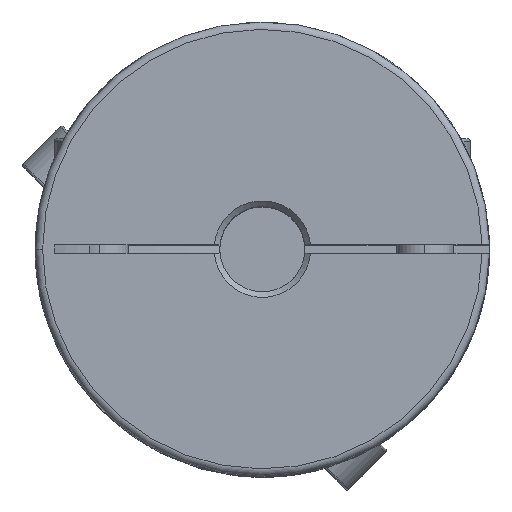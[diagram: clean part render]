
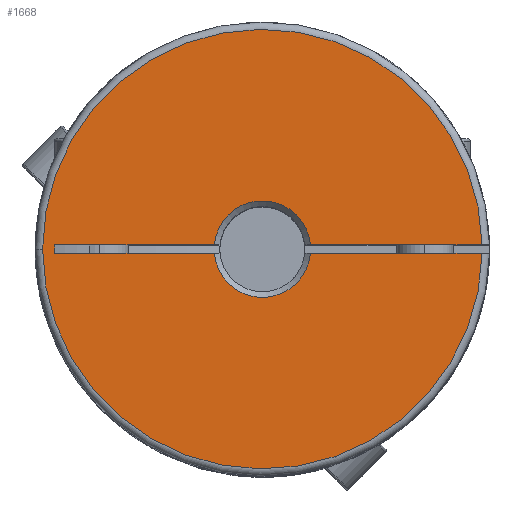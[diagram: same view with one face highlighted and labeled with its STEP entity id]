
A CAD part, top view. The second image highlights one B-rep face of the part: STEP entity #1668.
In plain terms, the highlighted planar face has unit normal (0, 0, 1).
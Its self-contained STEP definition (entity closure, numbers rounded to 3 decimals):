
#286 = EDGE_CURVE ( 'NONE', #1030, #1052, #11434, .T. ) ;
#287 = EDGE_CURVE ( 'NONE', #1052, #1054, #11433, .T. ) ;
#288 = EDGE_CURVE ( 'NONE', #1054, #1055, #11436, .T. ) ;
#289 = EDGE_CURVE ( 'NONE', #1055, #818, #11437, .T. ) ;
#290 = EDGE_CURVE ( 'NONE', #1043, #819, #11439, .T. ) ;
#291 = EDGE_CURVE ( 'NONE', #1043, #1057, #11440, .T. ) ;
#292 = EDGE_CURVE ( 'NONE', #1048, #1057, #11442, .T. ) ;
#293 = EDGE_CURVE ( 'NONE', #1048, #1030, #11432, .T. ) ;
#818 = VERTEX_POINT ( 'NONE', #16817 ) ;
#819 = VERTEX_POINT ( 'NONE', #16818 ) ;
#1030 = VERTEX_POINT ( 'NONE', #17019 ) ;
#1043 = VERTEX_POINT ( 'NONE', #17032 ) ;
#1048 = VERTEX_POINT ( 'NONE', #17037 ) ;
#1052 = VERTEX_POINT ( 'NONE', #17041 ) ;
#1054 = VERTEX_POINT ( 'NONE', #17043 ) ;
#1055 = VERTEX_POINT ( 'NONE', #17044 ) ;
#1057 = VERTEX_POINT ( 'NONE', #17046 ) ;
#1668 = ADVANCED_FACE ( 'NONE', ( #18265 ), #12683, .F. ) ;
#2494 = CARTESIAN_POINT ( 'NONE',  ( 0., 0.75, 57.1 ) ) ;
#2496 = DIRECTION ( 'NONE',  ( 1., 0., 0. ) ) ;
#2500 = DIRECTION ( 'NONE',  ( 1., 0., 0. ) ) ;
#2504 = CARTESIAN_POINT ( 'NONE',  ( 0., 0.75, 57.1 ) ) ;
#2505 = CARTESIAN_POINT ( 'NONE',  ( 0., -0.75, 57.1 ) ) ;
#2506 = DIRECTION ( 'NONE',  ( 1., 0., 0. ) ) ;
#2507 = CARTESIAN_POINT ( 'NONE',  ( 0., 0., 57.1 ) ) ;
#2508 = DIRECTION ( 'NONE',  ( 0., 0., -1. ) ) ;
#2509 = DIRECTION ( 'NONE',  ( 0., 1., 0. ) ) ;
#2510 = CARTESIAN_POINT ( 'NONE',  ( 0., -0.75, 57.1 ) ) ;
#2511 = DIRECTION ( 'NONE',  ( 1., 0., 0. ) ) ;
#2512 = CARTESIAN_POINT ( 'NONE',  ( 0., 0., 57.1 ) ) ;
#2513 = DIRECTION ( 'NONE',  ( 0., 0., 1. ) ) ;
#2514 = DIRECTION ( 'NONE',  ( -1., 0., 0. ) ) ;
#2516 = CARTESIAN_POINT ( 'NONE',  ( -36.562, -0.75, 57.1 ) ) ;
#2517 = CARTESIAN_POINT ( 'NONE',  ( 0., 0., 57.1 ) ) ;
#2518 = DIRECTION ( 'NONE',  ( 0., 0., -1. ) ) ;
#2519 = DIRECTION ( 'NONE',  ( 0., 1., 0. ) ) ;
#2521 = DIRECTION ( 'NONE',  ( 0., 1., 0. ) ) ;
#3809 = CARTESIAN_POINT ( 'NONE',  ( 0., 0., 57.1 ) ) ;
#3811 = DIRECTION ( 'NONE',  ( 0., 0., 1. ) ) ;
#3812 = DIRECTION ( 'NONE',  ( -1., 0., 0. ) ) ;
#5479 = AXIS2_PLACEMENT_3D ( 'NONE', #2507, #2508, #2509 ) ;
#5480 = AXIS2_PLACEMENT_3D ( 'NONE', #2512, #2513, #2514 ) ;
#5481 = AXIS2_PLACEMENT_3D ( 'NONE', #2517, #2518, #2519 ) ;
#8238 = EDGE_LOOP ( 'NONE', ( #12074, #12075, #12076, #12077, #12078, #12079, #12080, #12081, #12082 ) ) ;
#9528 = CIRCLE ( 'NONE', #12996, 38.7 ) ;
#9901 = AXIS2_PLACEMENT_3D ( 'NONE', #12682, #12686, #12687 ) ;
#11432 = LINE ( 'NONE', #2516, #11446 ) ;
#11433 = CIRCLE ( 'NONE', #5479, 8.5 ) ;
#11434 = LINE ( 'NONE', #2494, #11435 ) ;
#11435 = VECTOR ( 'NONE', #2496, 1000. ) ;
#11436 = LINE ( 'NONE', #2504, #11438 ) ;
#11437 = CIRCLE ( 'NONE', #5480, 38.7 ) ;
#11438 = VECTOR ( 'NONE', #2500, 1000. ) ;
#11439 = LINE ( 'NONE', #2505, #11441 ) ;
#11440 = CIRCLE ( 'NONE', #5481, 8.5 ) ;
#11441 = VECTOR ( 'NONE', #2506, 1000. ) ;
#11442 = LINE ( 'NONE', #2510, #11444 ) ;
#11444 = VECTOR ( 'NONE', #2511, 1000. ) ;
#11446 = VECTOR ( 'NONE', #2521, 1000. ) ;
#11598 = EDGE_CURVE ( 'NONE', #818, #819, #9528, .T. ) ;
#12074 = ORIENTED_EDGE ( 'NONE', *, *, #286, .T. ) ;
#12075 = ORIENTED_EDGE ( 'NONE', *, *, #287, .T. ) ;
#12076 = ORIENTED_EDGE ( 'NONE', *, *, #288, .T. ) ;
#12077 = ORIENTED_EDGE ( 'NONE', *, *, #289, .T. ) ;
#12078 = ORIENTED_EDGE ( 'NONE', *, *, #11598, .T. ) ;
#12079 = ORIENTED_EDGE ( 'NONE', *, *, #290, .F. ) ;
#12080 = ORIENTED_EDGE ( 'NONE', *, *, #291, .T. ) ;
#12081 = ORIENTED_EDGE ( 'NONE', *, *, #292, .F. ) ;
#12082 = ORIENTED_EDGE ( 'NONE', *, *, #293, .T. ) ;
#12682 = CARTESIAN_POINT ( 'NONE',  ( 0., 0., 57.1 ) ) ;
#12683 = PLANE ( 'NONE',  #9901 ) ;
#12686 = DIRECTION ( 'NONE',  ( 0., 0., -1. ) ) ;
#12687 = DIRECTION ( 'NONE',  ( -1., 0., 0. ) ) ;
#12996 = AXIS2_PLACEMENT_3D ( 'NONE', #3809, #3811, #3812 ) ;
#16817 = CARTESIAN_POINT ( 'NONE',  ( -38.7, 0., 57.1 ) ) ;
#16818 = CARTESIAN_POINT ( 'NONE',  ( 38.693, -0.75, 57.1 ) ) ;
#17019 = CARTESIAN_POINT ( 'NONE',  ( -36.562, 0.75, 57.1 ) ) ;
#17032 = CARTESIAN_POINT ( 'NONE',  ( 8.467, -0.75, 57.1 ) ) ;
#17037 = CARTESIAN_POINT ( 'NONE',  ( -36.562, -0.75, 57.1 ) ) ;
#17041 = CARTESIAN_POINT ( 'NONE',  ( -8.467, 0.75, 57.1 ) ) ;
#17043 = CARTESIAN_POINT ( 'NONE',  ( 8.467, 0.75, 57.1 ) ) ;
#17044 = CARTESIAN_POINT ( 'NONE',  ( 38.693, 0.75, 57.1 ) ) ;
#17046 = CARTESIAN_POINT ( 'NONE',  ( -8.467, -0.75, 57.1 ) ) ;
#18265 = FACE_OUTER_BOUND ( 'NONE', #8238, .T. ) ;
